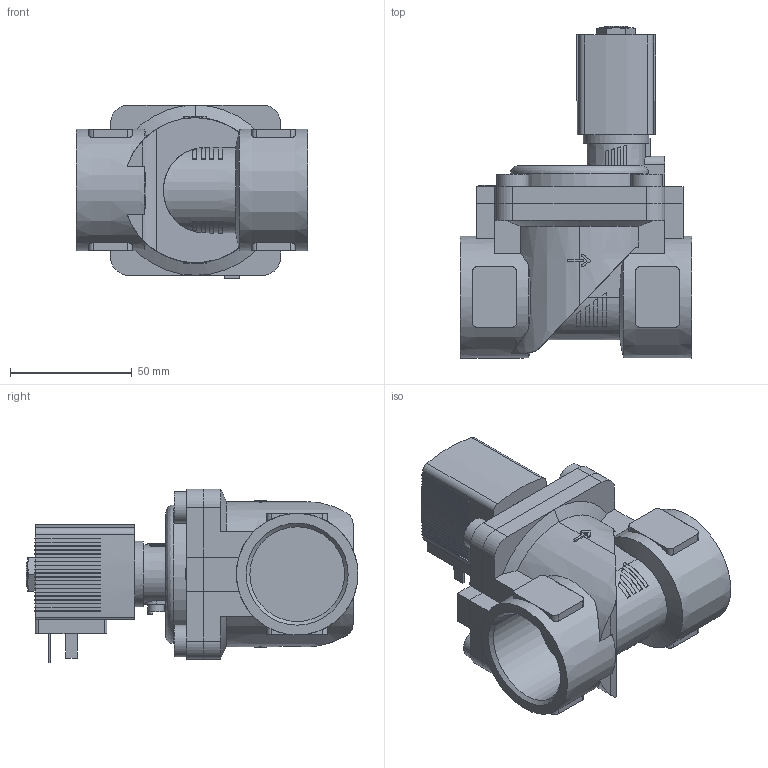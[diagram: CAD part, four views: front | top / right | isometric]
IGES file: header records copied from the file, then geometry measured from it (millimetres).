
Start section: Data from Parasolid IGES Translator 26.0.171, Copyright(c) 2006 Siemens PLM Software. All Rights Reserved.
Global section: file name: 6281-290316-2_2-Way_Solenoid_Valve__Servo-assisted__General_Purpose.igs; native system: By Siemens PLM Incorporated; preprocessor: XPlus GENERIC/IGES 26.0.171; author: Noname; organization: Noname; date: 20240611.062554; units: millimetre
Bounding box: 95 x 136.5 x 71.5 mm (x, y, z)
Surface area: 61848.1 mm2 (no closed solid volume)
Topology: 0 solids, 0 shells, 565 faces, 3160 edges, 3153 vertices
Faces by surface type: extrusion 446, revolution 119
